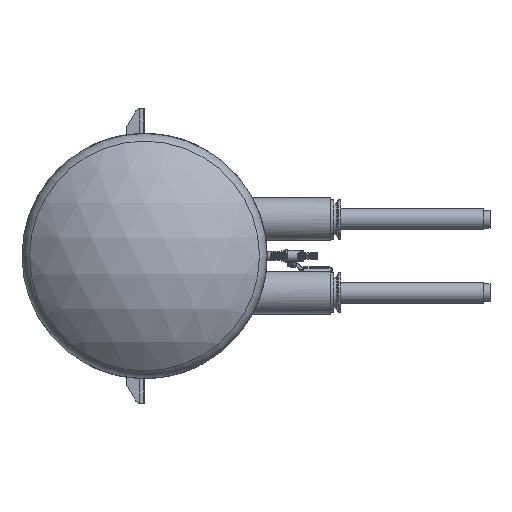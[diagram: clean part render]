
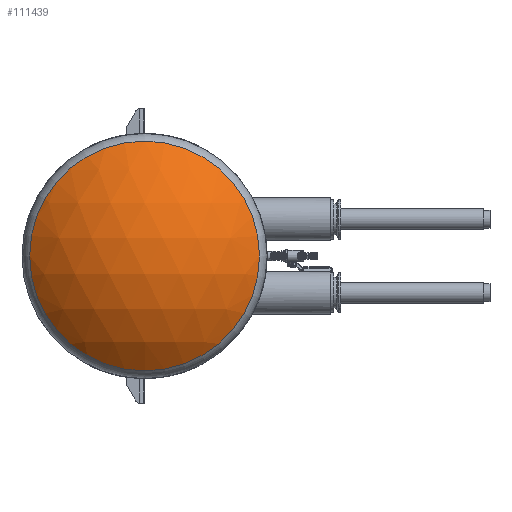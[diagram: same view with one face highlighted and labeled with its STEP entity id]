
A CAD part, left-side view. The second image highlights one B-rep face of the part: STEP entity #111439.
In plain terms, the highlighted spherical face has radius 346.109 mm.
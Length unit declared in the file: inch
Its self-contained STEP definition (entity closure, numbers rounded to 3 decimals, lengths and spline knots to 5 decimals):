
#10669 = CARTESIAN_POINT ( 'NONE',  ( -51.01125, 0., 0. ) ) ;
#14984 = FACE_OUTER_BOUND ( 'NONE', #104277, .T. ) ;
#26072 = DIRECTION ( 'NONE',  ( 0., 0., -1. ) ) ;
#26805 = DIRECTION ( 'NONE',  ( 0., 0., 1. ) ) ;
#29475 = SPHERICAL_SURFACE ( 'NONE', #71973, 13.62635 ) ;
#71661 = ORIENTED_EDGE ( 'NONE', *, *, #77369, .F. ) ;
#71973 = AXIS2_PLACEMENT_3D ( 'NONE', #165244, #26805, #109169 ) ;
#77369 = EDGE_CURVE ( 'NONE', #147790, #147790, #88038, .T. ) ;
#88038 = CIRCLE ( 'NONE', #177542, 9.37618 ) ;
#95785 = DIRECTION ( 'NONE',  ( 1., 0., 0. ) ) ;
#104277 = EDGE_LOOP ( 'NONE', ( #71661 ) ) ;
#109169 = DIRECTION ( 'NONE',  ( 0., 1., 0. ) ) ;
#111439 = ADVANCED_FACE ( 'NONE', ( #14984 ), #29475, .T. ) ;
#147790 = VERTEX_POINT ( 'NONE', #148696 ) ;
#148696 = CARTESIAN_POINT ( 'NONE',  ( -51.01125, 0., -9.37618 ) ) ;
#165244 = CARTESIAN_POINT ( 'NONE',  ( -41.12365, 0., 0. ) ) ;
#177542 = AXIS2_PLACEMENT_3D ( 'NONE', #10669, #95785, #26072 ) ;
